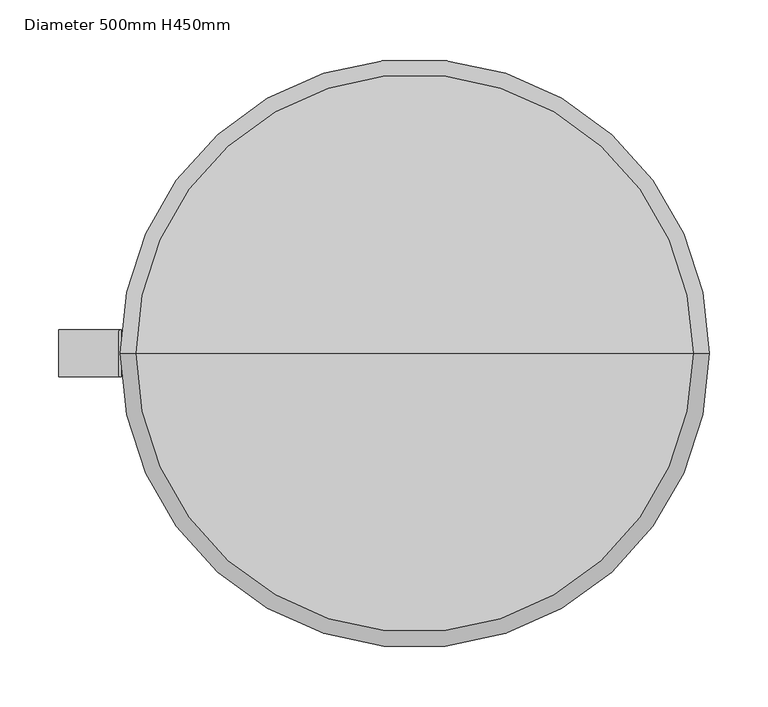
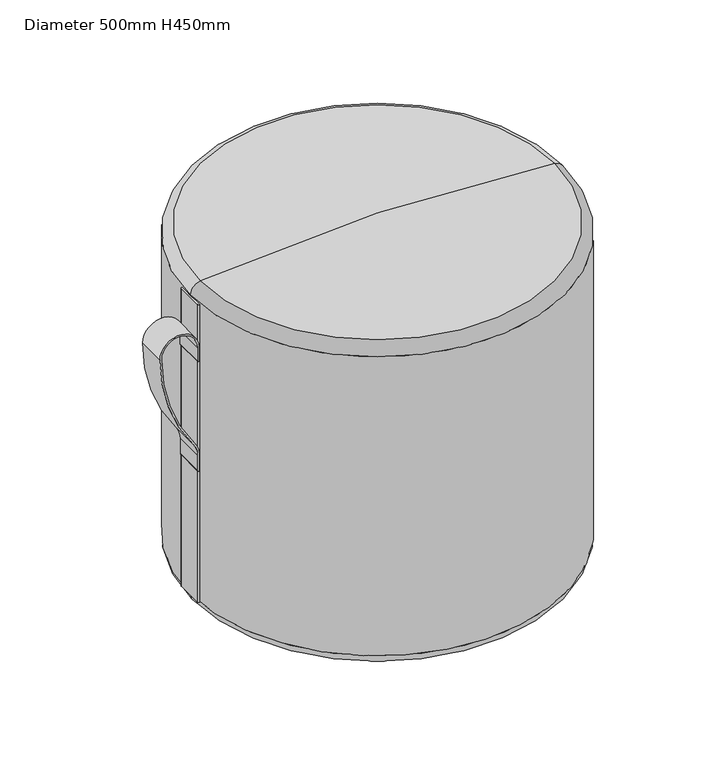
"""IFC4 building model written with IfcOpenShell, lengths in millimetres: furniture geometry, Funhouse Teacup (500x450) : Diameter 500mm H450mm."""

from ifc_helpers import new_model, si_unit, point, frame, frame_2d, origin, origin_2d, place, context, project, spatial, polyline, circle_curve, ellipse_curve, trimmed, segment, composite_curve, outline, extrude, source, transform, mapped, element, save
from ifc_brep_helpers import plane_surface, cylinder_surface, revolved_surface, advanced_brep


def diameter_500mm_h450mm_fac66995(model_context):
    return source(origin(), model_context, "Body", "SolidModel", [
        extrude(outline(composite_curve([segment(polyline([(222.4448893, -251.5495943), (201.0, -251.5495943)]), True, "CONTINUOUS"), segment(trimmed(circle_curve(frame_2d((201.0, -250.5495943)), 1.0), [point((201.0, -251.5495943))], [point((200.0, -250.5495943))], False, "CARTESIAN"), True, "CONTINUOUS"), segment(polyline([(200.0, -250.5495943), (200.0, -249.5495943), (222.4448893, -249.5495943)]), True, "CONTINUOUS"), segment(trimmed(circle_curve(frame_2d((222.4448893, -281.5495943)), 32.0), [point((222.4448893, -249.5495943))], [point((241.5233648, -255.8589))], False, "CARTESIAN"), True, "CONTINUOUS"), segment(trimmed(circle_curve(frame_2d((375.0, -76.1219267)), 223.8780733), [point((241.5233648, -255.8589))], [point((375.0, -300.0))], True, "CARTESIAN"), True, "CONTINUOUS"), segment(trimmed(circle_curve(frame_2d((375.0, -276.0)), 24.0), [point((375.0, -300.0))], [point((375.0, -252.0))], True, "CARTESIAN"), True, "CONTINUOUS"), segment(polyline([(375.0, -252.0), (356.0, -252.0)]), True, "CONTINUOUS"), segment(trimmed(circle_curve(frame_2d((356.0, -251.0)), 1.0), [point((356.0, -252.0))], [point((355.0, -251.0))], False, "CARTESIAN"), True, "CONTINUOUS"), segment(polyline([(355.0, -251.0), (355.0, -250.0), (375.0, -250.0)]), True, "CONTINUOUS"), segment(trimmed(circle_curve(frame_2d((375.0, -276.0)), 26.0), [point((375.0, -250.0))], [point((375.0, -302.0))], False, "CARTESIAN"), True, "CONTINUOUS"), segment(trimmed(circle_curve(frame_2d((375.0, -76.1219267)), 225.8780733), [point((375.0, -302.0))], [point((240.3309601, -257.4645684))], False, "CARTESIAN"), True, "CONTINUOUS"), segment(trimmed(circle_curve(frame_2d((222.4448893, -281.5495943)), 30.0), [point((240.3309601, -257.4645684))], [point((222.4448893, -251.5495943))], True, "CARTESIAN"), True, "CONTINUOUS")], self_intersect=False)), frame((0.0, -19.9839776, 0.0), z_axis=(0.0, 1.0, 0.0), x_axis=(0.0, 0.0, 1.0)), (0.0, 0.0, 1.0), 39.9679553),
        extrude(outline(composite_curve([segment(trimmed(circle_curve(frame_2d((-249.3518974, -17.9897541)), 2.0), [point((-249.2000013, -19.9839776))], [point((-251.3467126, -18.1336721))], False, "CARTESIAN"), True, "CONTINUOUS"), segment(trimmed(circle_curve(origin_2d(), 252.0), [point((-251.3467126, -18.1336721))], [point((-251.3467126, 18.1336721))], False, "CARTESIAN"), True, "CONTINUOUS"), segment(trimmed(circle_curve(frame_2d((-249.3518974, 17.9897541)), 2.0), [point((-251.3467126, 18.1336721))], [point((-249.2000013, 19.9839776))], False, "CARTESIAN"), True, "CONTINUOUS"), segment(trimmed(circle_curve(origin_2d(), 250.0), [point((-249.2000013, 19.9839776))], [point((-249.2000013, -19.9839776))], True, "CARTESIAN"), True, "CONTINUOUS")], self_intersect=False)), frame((0.0, 0.0, 15.0), z_axis=(0.0, 0.0, 1.0), x_axis=(1.0, 0.0, 0.0)), (0.0, 0.0, 1.0), 420.0),
        advanced_brep(
        [(-235.0, 0.0, 0.0), (235.0, 0.0, 0.0), (0.0, 0.0, 0.0), (-250.0, 0.0, 15.0), (250.0, 0.0, 15.0), (-250.0, 0.0, 436.7596765), (250.0, 0.0, 436.7596765), (-236.8081767, 0.0, 451.6502942), (236.8081767, 0.0, 451.6502942), (0.0, 0.0, 465.0)],
        [
            (0, 1, circle_curve(frame((0.0, 0.0, 0.0), z_axis=(0.0, 0.0, -1.0), x_axis=(1.0, 0.0, 0.0)), 235.0)),
            (1, 2),
            (2, 0),
            (1, 0, circle_curve(frame((0.0, 0.0, 0.0), z_axis=(0.0, 0.0, -1.0), x_axis=(1.0, 0.0, 0.0)), 235.0)),
            (3, 4, circle_curve(frame((0.0, 0.0, 15.0), z_axis=(0.0, 0.0, -1.0), x_axis=(1.0, 0.0, 0.0)), 250.0)),
            (4, 1, circle_curve(frame((235.0, 0.0, 15.0), z_axis=(0.0, 1.0, 0.0), x_axis=(1.0, 0.0, 0.0)), 15.0)),
            (0, 3, circle_curve(frame((-235.0, 0.0, 15.0), z_axis=(0.0, 1.0, 0.0), x_axis=(-1.0, 0.0, 0.0)), 15.0)),
            (4, 3, circle_curve(frame((0.0, 0.0, 15.0), z_axis=(0.0, 0.0, -1.0), x_axis=(1.0, 0.0, 0.0)), 250.0)),
            (5, 6, circle_curve(frame((0.0, 0.0, 436.7596765), z_axis=(0.0, 0.0, -1.0), x_axis=(1.0, 0.0, 0.0)), 250.0)),
            (6, 4),
            (3, 5),
            (6, 5, circle_curve(frame((0.0, 0.0, 436.7596765), z_axis=(0.0, 0.0, -1.0), x_axis=(1.0, 0.0, 0.0)), 250.0)),
            (7, 8, circle_curve(frame((0.0, 0.0, 451.6502942), z_axis=(0.0, 0.0, -1.0), x_axis=(1.0, 0.0, 0.0)), 236.8081767)),
            (8, 6, circle_curve(frame((235.0, 0.0, 436.7596765), z_axis=(0.0, 1.0, 0.0), x_axis=(1.0, 0.0, 0.0)), 15.0)),
            (5, 7, circle_curve(frame((-235.0, 0.0, 436.7596765), z_axis=(0.0, 1.0, 0.0), x_axis=(-1.0, 0.0, 0.0)), 15.0)),
            (8, 7, circle_curve(frame((0.0, 0.0, 451.6502942), z_axis=(0.0, 0.0, -1.0), x_axis=(1.0, 0.0, 0.0)), 236.8081767)),
            (9, 8, circle_curve(frame((15.101833, 0.0, -1374.1361172), z_axis=(0.0, 1.0, 0.0), x_axis=(1.0, 0.0, 0.0)), 1839.1981196)),
            (7, 9, circle_curve(frame((-15.101833, 0.0, -1374.1361172), z_axis=(0.0, 1.0, 0.0), x_axis=(-1.0, 0.0, 0.0)), 1839.1981196)),
        ],
        [
            plane_surface(frame((0.0, 0.0, 0.0), z_axis=(0.0, 0.0, -1.0), x_axis=(1.0, 0.0, 0.0))),
            revolved_surface(trimmed(ellipse_curve(frame((235.0, 0.0, 15.0), z_axis=(0.0, -1.0, 0.0), x_axis=(1.0, 0.0, 0.0)), 15.0, 15.0), [point((235.0, 0.0, 0.0))], [point((250.0, 0.0, 15.0))], True, "CARTESIAN"), (0.0, 0.0, 1997.4144888), (0.0, 0.0, 1.0)),
            cylinder_surface(frame((0.0, 0.0, 1997.4144888), z_axis=(0.0, 0.0, 1.0), x_axis=(1.0, 0.0, 0.0)), 250.0),
            revolved_surface(trimmed(ellipse_curve(frame((235.0, 0.0, 436.7596765), z_axis=(0.0, -1.0, 0.0), x_axis=(1.0, 0.0, 0.0)), 15.0, 15.0), [point((250.0, 0.0, 436.7596765))], [point((236.8081767, 0.0, 451.6502942))], True, "CARTESIAN"), (0.0, 0.0, 1997.4144888), (0.0, 0.0, 1.0)),
            revolved_surface(trimmed(ellipse_curve(frame((15.101833, 0.0, -1374.1361172), z_axis=(0.0, -1.0, 0.0), x_axis=(1.0, 0.0, 0.0)), 1839.1981196, 1839.1981196), [point((236.8081767, 0.0, 451.6502942))], [point((0.0, 0.0, 465.0))], True, "CARTESIAN"), (0.0, 0.0, 1997.4144888), (0.0, 0.0, 1.0)),
        ],
        [
            (0, [[1, 2, 3]]),
            (0, [[4, -3, -2]]),
            (1, [[5, 6, -1, 7]]),
            (1, [[8, -7, -4, -6]]),
            (2, [[9, 10, -5, 11]]),
            (2, [[12, -11, -8, -10]]),
            (3, [[13, 14, -9, 15]]),
            (3, [[16, -15, -12, -14]]),
            (4, [[17, -13, 18]]),
            (4, [[-18, -16, -17]]),
        ],
    ),
    ])


if __name__ == "__main__":
    model = new_model("IFC4")
    model_context = context("Model", 3, world=origin())
    ifc_project = project(units=[si_unit("LENGTHUNIT", "METRE", prefix="MILLI")], contexts=[model_context])
    site = spatial("IfcSite", under=ifc_project)
    building = spatial("IfcBuilding", under=site)
    placement = place(None, origin())
    diameter_500mm_h450mm_shape = diameter_500mm_h450mm_fac66995(model_context)
    element("IfcFurniture", 1, ObjectType="Funhouse Teacup (500x450) : Diameter 500mm H450mm", at=placement, inside=building, context=model_context, shape_type="MappedRepresentation", body=[
        mapped(diameter_500mm_h450mm_shape, transform((0.0, 0.0, 0.0), x_axis=(1.0, 0.0, 0.0), y_axis=(0.0, 1.0, 0.0), z_axis=(0.0, 0.0, 1.0))),
    ])
    save(model, "model.ifc")
